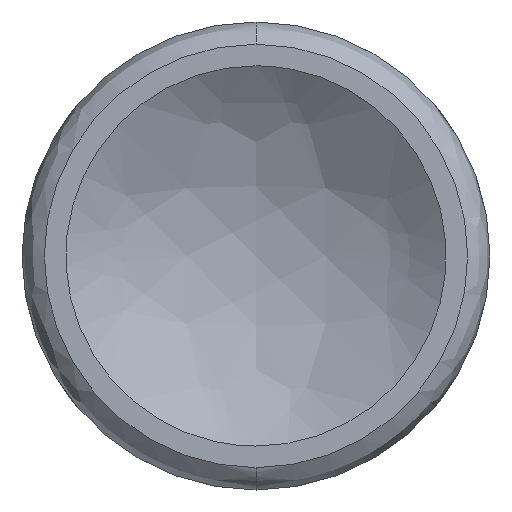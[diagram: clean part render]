
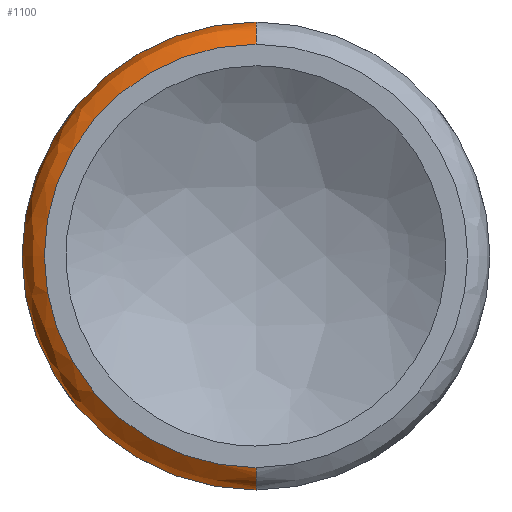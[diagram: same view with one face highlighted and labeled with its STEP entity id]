
A CAD part, top view. The second image highlights one B-rep face of the part: STEP entity #1100.
In plain terms, the highlighted free-form (B-spline) face has degree [3, 3] with [4, 4] control points.
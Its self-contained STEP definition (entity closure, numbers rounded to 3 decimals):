
#13 = ORIENTED_EDGE ( 'NONE', *, *, #1562, .T. ) ;
#107 = EDGE_CURVE ( 'NONE', #1189, #537, #1957, .T. ) ;
#137 = CARTESIAN_POINT ( 'NONE',  ( 0., 9.5, 24.5 ) ) ;
#165 = CARTESIAN_POINT ( 'NONE',  ( -21., 10.5, 23.744 ) ) ;
#217 = DIRECTION ( 'NONE',  ( 0., 1., 0. ) ) ;
#271 = EDGE_CURVE ( 'NONE', #1338, #2234, #683, .T. ) ;
#323 = AXIS2_PLACEMENT_3D ( 'NONE', #1496, #417, #494 ) ;
#329 = AXIS2_PLACEMENT_3D ( 'NONE', #1549, #2364, #1336 ) ;
#351 = CARTESIAN_POINT ( 'NONE',  ( 0., 10.5, 23.086 ) ) ;
#417 = DIRECTION ( 'NONE',  ( -1., 0., 0. ) ) ;
#438 = CARTESIAN_POINT ( 'NONE',  ( 0., 9.5, 24.5 ) ) ;
#494 = DIRECTION ( 'NONE',  ( 0., -1., 0. ) ) ;
#537 = VERTEX_POINT ( 'NONE', #438 ) ;
#683 = CIRCLE ( 'NONE', #1294, 10.5 ) ;
#764 = CARTESIAN_POINT ( 'NONE',  ( -20.241, -10.12, 24.281 ) ) ;
#775 = CARTESIAN_POINT ( 'NONE',  ( 0., -10.12, 24.281 ) ) ;
#905 = AXIS2_PLACEMENT_3D ( 'NONE', #1400, #974, #2418 ) ;
#927 = ORIENTED_EDGE ( 'NONE', *, *, #271, .F. ) ;
#931 = CARTESIAN_POINT ( 'NONE',  ( 0., 10.5, 23.086 ) ) ;
#974 = DIRECTION ( 'NONE',  ( 0., 0., -1. ) ) ;
#1016 = CARTESIAN_POINT ( 'NONE',  ( -20.241, 10.12, 24.281 ) ) ;
#1030 = ORIENTED_EDGE ( 'NONE', *, *, #107, .T. ) ;
#1100 = ADVANCED_FACE ( 'NONE', ( #2162 ), #2453, .T. ) ;
#1114 = CARTESIAN_POINT ( 'NONE',  ( 0., -10.5, 23.086 ) ) ;
#1135 = CARTESIAN_POINT ( 'NONE',  ( 0., -10.5, 23.086 ) ) ;
#1189 = VERTEX_POINT ( 'NONE', #1930 ) ;
#1200 = ORIENTED_EDGE ( 'NONE', *, *, #1334, .F. ) ;
#1222 = CARTESIAN_POINT ( 'NONE',  ( -19., -9.5, 24.5 ) ) ;
#1294 = AXIS2_PLACEMENT_3D ( 'NONE', #2274, #1668, #217 ) ;
#1334 = EDGE_CURVE ( 'NONE', #2234, #537, #2693, .T. ) ;
#1336 = DIRECTION ( 'NONE',  ( 0., 1., 0. ) ) ;
#1338 = VERTEX_POINT ( 'NONE', #1135 ) ;
#1400 = CARTESIAN_POINT ( 'NONE',  ( 0., 0., 24.5 ) ) ;
#1496 = CARTESIAN_POINT ( 'NONE',  ( 0., -9., 23.086 ) ) ;
#1549 = CARTESIAN_POINT ( 'NONE',  ( 0., 9., 23.086 ) ) ;
#1560 = CIRCLE ( 'NONE', #323, 1.5 ) ;
#1562 = EDGE_CURVE ( 'NONE', #1338, #1189, #1560, .T. ) ;
#1596 = CARTESIAN_POINT ( 'NONE',  ( -19., 9.5, 24.5 ) ) ;
#1668 = DIRECTION ( 'NONE',  ( 0., 0., -1. ) ) ;
#1753 = CARTESIAN_POINT ( 'NONE',  ( -21., 10.5, 23.086 ) ) ;
#1930 = CARTESIAN_POINT ( 'NONE',  ( 0., -9.5, 24.5 ) ) ;
#1957 = CIRCLE ( 'NONE', #905, 9.5 ) ;
#1958 = CARTESIAN_POINT ( 'NONE',  ( -21., -10.5, 23.086 ) ) ;
#2162 = FACE_OUTER_BOUND ( 'NONE', #2486, .T. ) ;
#2230 = CARTESIAN_POINT ( 'NONE',  ( 0., 10.5, 23.744 ) ) ;
#2234 = VERTEX_POINT ( 'NONE', #931 ) ;
#2274 = CARTESIAN_POINT ( 'NONE',  ( 0., 0., 23.086 ) ) ;
#2364 = DIRECTION ( 'NONE',  ( 1., 0., 0. ) ) ;
#2415 = CARTESIAN_POINT ( 'NONE',  ( 0., -9.5, 24.5 ) ) ;
#2418 = DIRECTION ( 'NONE',  ( 0., 1., 0. ) ) ;
#2453 =( BOUNDED_SURFACE ( )  B_SPLINE_SURFACE ( 3, 3, ( 
 ( #1114, #1958, #1753, #351 ),
 ( #2684, #2638, #165, #2230 ),
 ( #775, #764, #1016, #2480 ),
 ( #2415, #1222, #1596, #137 ) ),
 .UNSPECIFIED., .F., .F., .F. ) 
 B_SPLINE_SURFACE_WITH_KNOTS ( ( 4, 4 ),
 ( 4, 4 ),
 ( 0., 1. ),
 ( 0., 1. ),
 .UNSPECIFIED. ) 
 GEOMETRIC_REPRESENTATION_ITEM ( )  RATIONAL_B_SPLINE_SURFACE ( (
 ( 1., 0.333, 0.333, 1.),
 ( 0.878, 0.293, 0.293, 0.878),
 ( 0.878, 0.293, 0.293, 0.878),
 ( 1., 0.333, 0.333, 1.) ) ) 
 REPRESENTATION_ITEM ( '' )  SURFACE ( )  );
#2480 = CARTESIAN_POINT ( 'NONE',  ( 0., 10.12, 24.281 ) ) ;
#2486 = EDGE_LOOP ( 'NONE', ( #927, #13, #1030, #1200 ) ) ;
#2638 = CARTESIAN_POINT ( 'NONE',  ( -21., -10.5, 23.744 ) ) ;
#2684 = CARTESIAN_POINT ( 'NONE',  ( 0., -10.5, 23.744 ) ) ;
#2693 = CIRCLE ( 'NONE', #329, 1.5 ) ;
